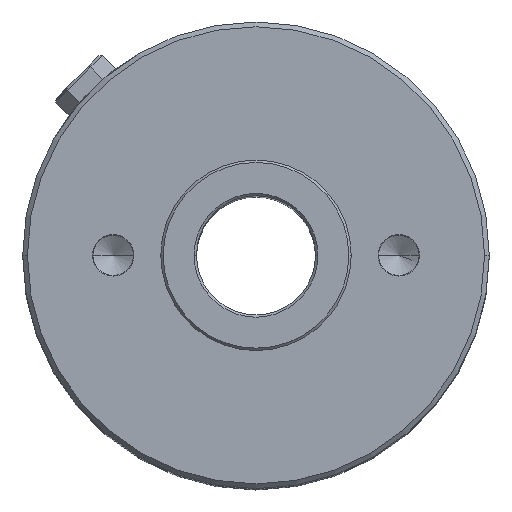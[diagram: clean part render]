
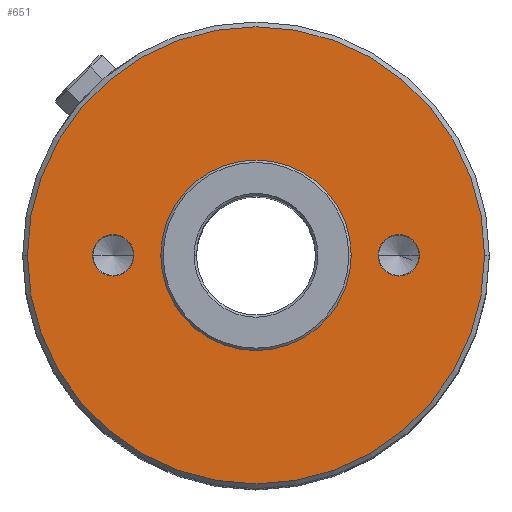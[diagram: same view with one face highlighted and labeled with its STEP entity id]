
A CAD part, top view. The second image highlights one B-rep face of the part: STEP entity #651.
In plain terms, the highlighted planar face has unit normal (0, 0, 1).
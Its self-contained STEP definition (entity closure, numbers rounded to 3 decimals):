
#22 = CIRCLE ( 'NONE', #868, 48. ) ;
#68 = DIRECTION ( 'NONE',  ( 1., 0., 0. ) ) ;
#74 = AXIS2_PLACEMENT_3D ( 'NONE', #2053, #2057, #2065 ) ;
#143 = FACE_BOUND ( 'NONE', #943, .T. ) ;
#159 = DIRECTION ( 'NONE',  ( 0., 0., -1. ) ) ;
#173 = AXIS2_PLACEMENT_3D ( 'NONE', #359, #199, #191 ) ;
#191 = DIRECTION ( 'NONE',  ( 1., 0., 0. ) ) ;
#195 = CARTESIAN_POINT ( 'NONE',  ( 34.35, 0., 160. ) ) ;
#199 = DIRECTION ( 'NONE',  ( 0., 0., -1. ) ) ;
#204 = CARTESIAN_POINT ( 'NONE',  ( -20., 0., 160. ) ) ;
#221 = CARTESIAN_POINT ( 'NONE',  ( -30., 0., 160. ) ) ;
#230 = EDGE_CURVE ( 'NONE', #1515, #1693, #1976, .T. ) ;
#274 = CIRCLE ( 'NONE', #404, 4.35 ) ;
#297 = CARTESIAN_POINT ( 'NONE',  ( 25.65, 0., 160. ) ) ;
#301 = EDGE_CURVE ( 'NONE', #457, #874, #274, .T. ) ;
#302 = CIRCLE ( 'NONE', #726, 4.35 ) ;
#320 = CIRCLE ( 'NONE', #173, 4.35 ) ;
#359 = CARTESIAN_POINT ( 'NONE',  ( 30., 0., 160. ) ) ;
#377 = CARTESIAN_POINT ( 'NONE',  ( 30., 0., 160. ) ) ;
#404 = AXIS2_PLACEMENT_3D ( 'NONE', #221, #159, #68 ) ;
#428 = DIRECTION ( 'NONE',  ( 0., 0., 1. ) ) ;
#433 = CARTESIAN_POINT ( 'NONE',  ( 0., 0., 160. ) ) ;
#457 = VERTEX_POINT ( 'NONE', #1039 ) ;
#459 = ORIENTED_EDGE ( 'NONE', *, *, #966, .T. ) ;
#481 = AXIS2_PLACEMENT_3D ( 'NONE', #433, #428, #2051 ) ;
#482 = CIRCLE ( 'NONE', #1370, 48. ) ;
#603 = DIRECTION ( 'NONE',  ( 0., 0., -1. ) ) ;
#629 = ORIENTED_EDGE ( 'NONE', *, *, #1602, .F. ) ;
#631 = CARTESIAN_POINT ( 'NONE',  ( 0., 0., 160. ) ) ;
#651 = ADVANCED_FACE ( 'NONE', ( #1604, #143, #1619, #1610 ), #1935, .T. ) ;
#726 = AXIS2_PLACEMENT_3D ( 'NONE', #1646, #1529, #1394 ) ;
#737 = EDGE_CURVE ( 'NONE', #1057, #2076, #482, .T. ) ;
#806 = VERTEX_POINT ( 'NONE', #195 ) ;
#816 = DIRECTION ( 'NONE',  ( 0., 0., 1. ) ) ;
#868 = AXIS2_PLACEMENT_3D ( 'NONE', #1194, #1207, #1338 ) ;
#874 = VERTEX_POINT ( 'NONE', #1934 ) ;
#905 = ORIENTED_EDGE ( 'NONE', *, *, #737, .T. ) ;
#922 = EDGE_LOOP ( 'NONE', ( #1535, #905 ) ) ;
#943 = EDGE_LOOP ( 'NONE', ( #1794, #459 ) ) ;
#954 = CARTESIAN_POINT ( 'NONE',  ( 48., 0., 160. ) ) ;
#966 = EDGE_CURVE ( 'NONE', #2047, #806, #2012, .T. ) ;
#1006 = ORIENTED_EDGE ( 'NONE', *, *, #230, .F. ) ;
#1039 = CARTESIAN_POINT ( 'NONE',  ( -25.65, 0., 160. ) ) ;
#1057 = VERTEX_POINT ( 'NONE', #954 ) ;
#1127 = CARTESIAN_POINT ( 'NONE',  ( -48., 0., 160. ) ) ;
#1140 = DIRECTION ( 'NONE',  ( 1., 0., 0. ) ) ;
#1145 = AXIS2_PLACEMENT_3D ( 'NONE', #1896, #1899, #1980 ) ;
#1174 = AXIS2_PLACEMENT_3D ( 'NONE', #377, #603, #1824 ) ;
#1193 = EDGE_CURVE ( 'NONE', #874, #457, #302, .T. ) ;
#1194 = CARTESIAN_POINT ( 'NONE',  ( 0., 0., 160. ) ) ;
#1207 = DIRECTION ( 'NONE',  ( 0., 0., 1. ) ) ;
#1338 = DIRECTION ( 'NONE',  ( 1., 0., 0. ) ) ;
#1365 = CARTESIAN_POINT ( 'NONE',  ( 20., 0., 160. ) ) ;
#1370 = AXIS2_PLACEMENT_3D ( 'NONE', #631, #816, #1140 ) ;
#1381 = EDGE_LOOP ( 'NONE', ( #629, #1006 ) ) ;
#1394 = DIRECTION ( 'NONE',  ( 1., 0., 0. ) ) ;
#1515 = VERTEX_POINT ( 'NONE', #1365 ) ;
#1529 = DIRECTION ( 'NONE',  ( 0., 0., -1. ) ) ;
#1535 = ORIENTED_EDGE ( 'NONE', *, *, #1719, .T. ) ;
#1602 = EDGE_CURVE ( 'NONE', #1693, #1515, #1877, .T. ) ;
#1604 = FACE_OUTER_BOUND ( 'NONE', #922, .T. ) ;
#1610 = FACE_BOUND ( 'NONE', #1381, .T. ) ;
#1619 = FACE_BOUND ( 'NONE', #1814, .T. ) ;
#1646 = CARTESIAN_POINT ( 'NONE',  ( -30., 0., 160. ) ) ;
#1693 = VERTEX_POINT ( 'NONE', #204 ) ;
#1718 = ORIENTED_EDGE ( 'NONE', *, *, #1193, .T. ) ;
#1719 = EDGE_CURVE ( 'NONE', #2076, #1057, #22, .T. ) ;
#1794 = ORIENTED_EDGE ( 'NONE', *, *, #1889, .T. ) ;
#1814 = EDGE_LOOP ( 'NONE', ( #2045, #1718 ) ) ;
#1824 = DIRECTION ( 'NONE',  ( 1., 0., 0. ) ) ;
#1877 = CIRCLE ( 'NONE', #1145, 20. ) ;
#1889 = EDGE_CURVE ( 'NONE', #806, #2047, #320, .T. ) ;
#1896 = CARTESIAN_POINT ( 'NONE',  ( 0., 0., 160. ) ) ;
#1899 = DIRECTION ( 'NONE',  ( 0., 0., 1. ) ) ;
#1934 = CARTESIAN_POINT ( 'NONE',  ( -34.35, 0., 160. ) ) ;
#1935 = PLANE ( 'NONE',  #481 ) ;
#1976 = CIRCLE ( 'NONE', #74, 20. ) ;
#1980 = DIRECTION ( 'NONE',  ( 1., 0., 0. ) ) ;
#2012 = CIRCLE ( 'NONE', #1174, 4.35 ) ;
#2045 = ORIENTED_EDGE ( 'NONE', *, *, #301, .T. ) ;
#2047 = VERTEX_POINT ( 'NONE', #297 ) ;
#2051 = DIRECTION ( 'NONE',  ( 1., 0., 0. ) ) ;
#2053 = CARTESIAN_POINT ( 'NONE',  ( 0., 0., 160. ) ) ;
#2057 = DIRECTION ( 'NONE',  ( 0., 0., 1. ) ) ;
#2065 = DIRECTION ( 'NONE',  ( 1., 0., 0. ) ) ;
#2076 = VERTEX_POINT ( 'NONE', #1127 ) ;
